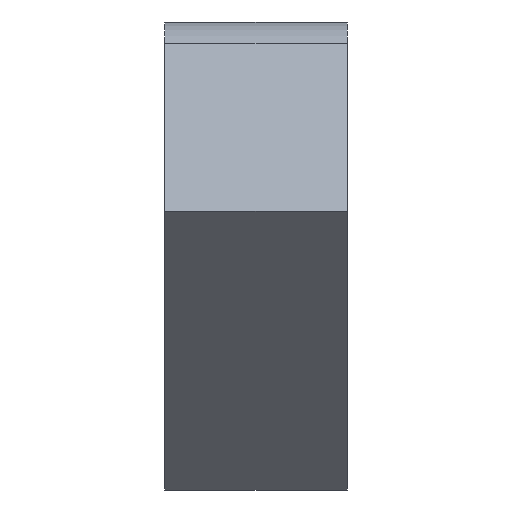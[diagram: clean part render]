
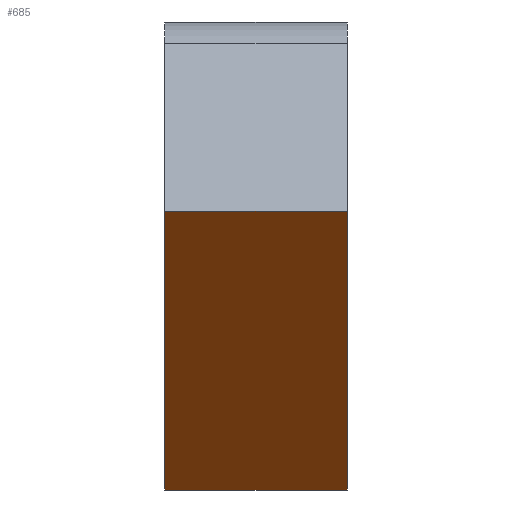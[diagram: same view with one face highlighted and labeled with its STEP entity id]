
A CAD part, front view. The second image highlights one B-rep face of the part: STEP entity #685.
In plain terms, the highlighted planar face has unit normal (0, -0.707, -0.707).
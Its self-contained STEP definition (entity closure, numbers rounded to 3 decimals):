
#51=PLANE('',#770);
#84=FACE_OUTER_BOUND('',#119,.T.);
#119=EDGE_LOOP('',(#584,#585,#586,#587));
#170=LINE('',#1032,#231);
#173=LINE('',#1042,#234);
#200=LINE('',#1143,#261);
#201=LINE('',#1145,#262);
#231=VECTOR('',#827,10.);
#234=VECTOR('',#838,10.);
#261=VECTOR('',#951,10.);
#262=VECTOR('',#954,10.);
#324=VERTEX_POINT('',#1029);
#325=VERTEX_POINT('',#1031);
#328=VERTEX_POINT('',#1041);
#359=VERTEX_POINT('',#1141);
#392=EDGE_CURVE('',#324,#325,#170,.T.);
#397=EDGE_CURVE('',#325,#328,#173,.T.);
#448=EDGE_CURVE('',#324,#359,#200,.T.);
#449=EDGE_CURVE('',#328,#359,#201,.T.);
#584=ORIENTED_EDGE('',*,*,#448,.T.);
#585=ORIENTED_EDGE('',*,*,#449,.F.);
#586=ORIENTED_EDGE('',*,*,#397,.F.);
#587=ORIENTED_EDGE('',*,*,#392,.F.);
#685=ADVANCED_FACE('',(#84),#51,.T.);
#770=AXIS2_PLACEMENT_3D('',#1144,#952,#953);
#827=DIRECTION('',(0.,-0.707,0.707));
#838=DIRECTION('',(1.,0.,0.));
#951=DIRECTION('',(1.,0.,0.));
#952=DIRECTION('center_axis',(0.,-0.707,-0.707));
#953=DIRECTION('ref_axis',(0.,0.707,-0.707));
#954=DIRECTION('',(0.,0.707,-0.707));
#1029=CARTESIAN_POINT('',(-12.5,2.121,-36.062));
#1031=CARTESIAN_POINT('',(-12.5,-36.062,2.121));
#1032=CARTESIAN_POINT('',(-12.5,-36.062,2.121));
#1041=CARTESIAN_POINT('',(12.5,-36.062,2.121));
#1042=CARTESIAN_POINT('',(0.,-36.062,2.121));
#1141=CARTESIAN_POINT('',(12.5,2.121,-36.062));
#1143=CARTESIAN_POINT('',(0.,2.121,-36.062));
#1144=CARTESIAN_POINT('Origin',(0.,-36.062,2.121));
#1145=CARTESIAN_POINT('',(12.5,-36.062,2.121));
